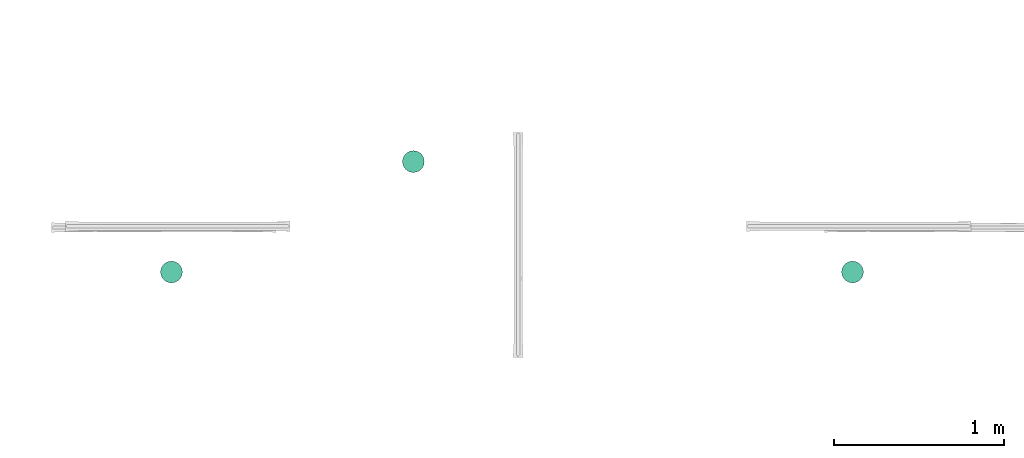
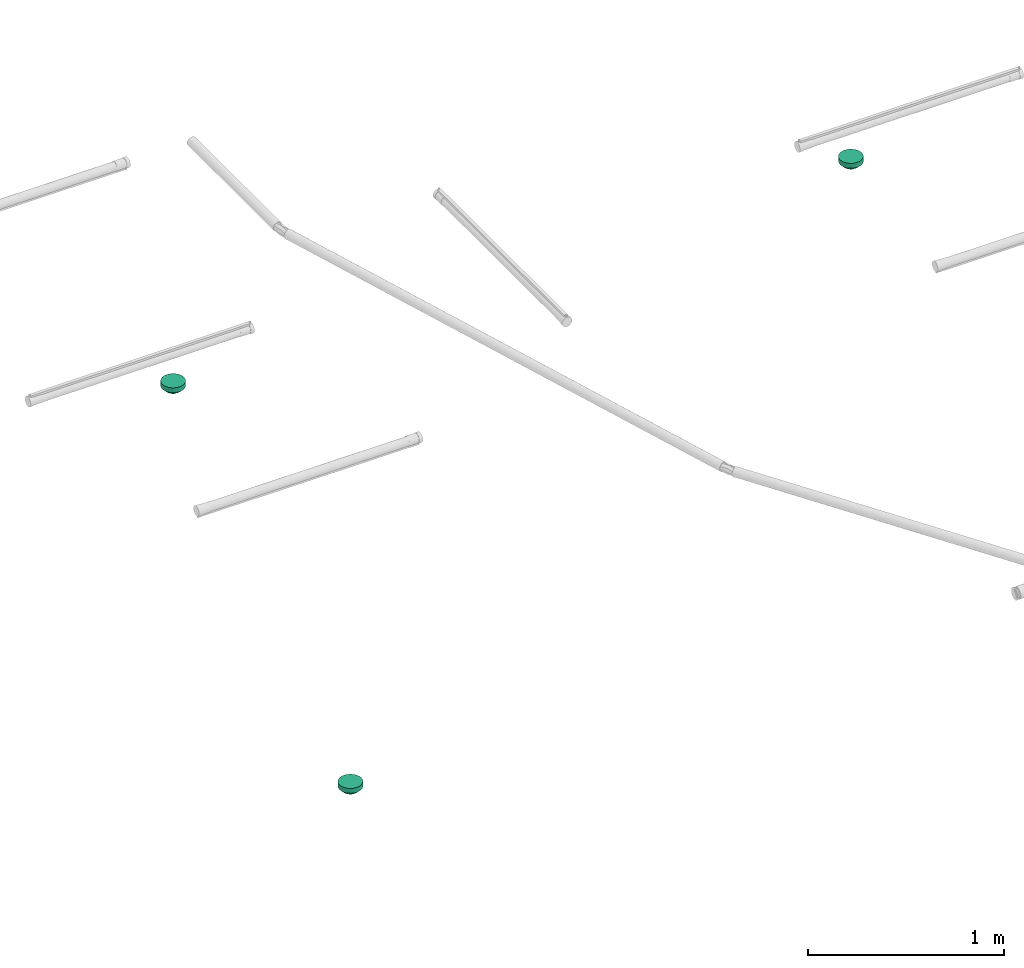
# One storey, part 32 of 153: 3 flow terminals.
"""IFC2X3 building model written with IfcOpenShell, lengths in metres."""

import ifcopenshell
import ifcopenshell.guid

model = None  # the IFC model being written
_history = None  # IfcOwnerHistory: only IFC2X3 demands one
_inside = {}  # id of a spatial element -> (the spatial element, [elements in it])
_under = {}  # id of a project, library or spatial element -> (it, [spatial elements below it])
_declared = {}  # id of a project -> (the project, [libraries it declares])
_typed = {}  # id of a type object -> (the type object, [elements of that type])
_made_of = {}  # id of a material, layer set ... -> (it, [elements and type objects made of it])


def new_model(schema):
    """Start an empty IFC model of exactly this schema.

    Asked for "IFC4X3", IfcOpenShell would pick the latest addendum, in which some entities
    have other attributes; the version numbers below select the first issue.
    IFC2X3 requires an IfcOwnerHistory on every rooted entity: one is made here for all.
    """
    global model, _history
    if schema == "IFC4X3":
        model = ifcopenshell.file(schema_version=(4, 3, 0, 0))
    else:
        model = ifcopenshell.file(schema=schema)
    _inside.clear()
    _under.clear()
    _declared.clear()
    _typed.clear()
    _made_of.clear()
    _history = None
    if model.schema == "IFC2X3":
        org = make("IfcOrganization", Name="unknown")
        user = make(
            "IfcPersonAndOrganization",
            ThePerson=make("IfcPerson", FamilyName="unknown"),
            TheOrganization=org,
        )
        app = make(
            "IfcApplication",
            ApplicationDeveloper=org,
            Version="unknown",
            ApplicationFullName="unknown",
            ApplicationIdentifier="unknown",
        )
        _history = make(
            "IfcOwnerHistory",
            OwningUser=user,
            OwningApplication=app,
            ChangeAction="ADDED",
            CreationDate=0,
        )
    return model


def make(cls, **values):
    """One entity of the class cls with the attributes given. An attribute that is None is left unset."""
    return model.create_entity(
        cls, **{name: value for name, value in values.items() if value is not None}
    )


def entity(cls, *values):
    """Any entity or typed value of the class cls, its attributes in the order of the schema. None: left unset."""
    e = model.create_entity(cls)
    for i, value in enumerate(values):
        if value is not None:
            e[i] = value
    return e


def rooted(cls, **values):
    """An entity with a GlobalId (a new one), such as an element, a storey or a relation."""
    return make(cls, GlobalId=ifcopenshell.guid.new(), OwnerHistory=_history, **values)


def si_unit(unit_type, name, prefix=None):
    """IfcSIUnit, for example si_unit("LENGTHUNIT", "METRE", prefix="MILLI")."""
    return make("IfcSIUnit", UnitType=unit_type, Prefix=prefix, Name=name)


def converted_unit(unit_type, name, factor, base, dimensions=None, offset=None):
    """IfcConversionBasedUnit, such as the inch: factor (a typed value) times the base unit."""
    return make(
        "IfcConversionBasedUnit"
        if offset is None
        else "IfcConversionBasedUnitWithOffset",
        ConversionOffset=offset,
        Dimensions=None
        if dimensions is None
        else entity("IfcDimensionalExponents", *dimensions),
        UnitType=unit_type,
        Name=name,
        ConversionFactor=make(
            "IfcMeasureWithUnit", ValueComponent=factor, UnitComponent=base
        ),
    )


def derived_unit(unit_type, elements):
    """IfcDerivedUnit: a product of units, each with its exponent."""
    return make(
        "IfcDerivedUnit",
        Elements=[
            make("IfcDerivedUnitElement", Unit=unit, Exponent=power)
            for unit, power in elements
        ],
        UnitType=unit_type,
    )


def assignment(units):
    """IfcUnitAssignment: the units of a project."""
    return None if units is None else make("IfcUnitAssignment", Units=units)


def point(xyz):
    """IfcCartesianPoint."""
    return None if xyz is None else make("IfcCartesianPoint", Coordinates=xyz)


def direction(xyz):
    """IfcDirection."""
    return None if xyz is None else make("IfcDirection", DirectionRatios=xyz)


def frame(location, z_axis=None, x_axis=None):
    """IfcAxis2Placement3D, a coordinate frame: its origin and axes. An axis left out is left unset."""
    return make(
        "IfcAxis2Placement3D",
        Location=point(location),
        Axis=direction(z_axis),
        RefDirection=direction(x_axis),
    )


def origin():
    """The frame at (0, 0, 0) with its axes left unset."""
    return frame((0.0, 0.0, 0.0))


def place(relative_to, where):
    """IfcLocalPlacement: puts the frame where relative to a parent placement (None: the world)."""
    return make(
        "IfcLocalPlacement", PlacementRelTo=relative_to, RelativePlacement=where
    )


def context(
    kind, dimensions, precision=None, world=None, true_north=None, identifier=None
):
    """IfcGeometricRepresentationContext, for example the 3D "Model" context."""
    return make(
        "IfcGeometricRepresentationContext",
        ContextIdentifier=identifier,
        ContextType=kind,
        CoordinateSpaceDimension=dimensions,
        Precision=precision,
        WorldCoordinateSystem=world,
        TrueNorth=true_north,
    )


def subcontext(parent, identifier, kind, view, scale=None):
    """IfcGeometricRepresentationSubContext, for example "Body" below "Model"."""
    return make(
        "IfcGeometricRepresentationSubContext",
        ContextIdentifier=identifier,
        ContextType=kind,
        ParentContext=parent,
        TargetScale=scale,
        TargetView=view,
    )


def project(units=None, contexts=None):
    """IfcProject with its units and contexts."""
    return rooted(
        "IfcProject",
        Name="project",
        RepresentationContexts=contexts,
        UnitsInContext=assignment(units),
    )


def spatial(cls, under=None, at=None, **own):
    """A site, building, storey or space (cls), placed at a placement, below another one or the project."""
    s = rooted(cls, ObjectPlacement=at, **own)
    if under is not None:
        _under.setdefault(under.id(), (under, []))[1].append(s)
    return s


def faces_of(points, faces, orient=None, outer=None):
    """IfcFace entities. A face is a list of loops; a loop is a list of indices into points, from 0.

    orient and outer hold one flag for each loop. By default every Orientation is true, the
    first loop of a face is its IfcFaceOuterBound and the others are IfcFaceBound.
    """
    made = []
    for i, loops in enumerate(faces):
        bounds = []
        for j, loop in enumerate(loops):
            is_outer = j == 0 if outer is None else outer[i][j]
            bounds.append(
                make(
                    "IfcFaceOuterBound" if is_outer else "IfcFaceBound",
                    Bound=make("IfcPolyLoop", Polygon=[points[k] for k in loop]),
                    Orientation=True if orient is None else orient[i][j],
                )
            )
        made.append(make("IfcFace", Bounds=bounds))
    return made


def faceted_brep(points, faces, orient=None, outer=None, voids=None):
    """IfcFacetedBrep: a solid bounded by flat faces; with voids (closed shells), ...WithVoids."""
    shared = [point(p) for p in points]
    hull = make("IfcClosedShell", CfsFaces=faces_of(shared, faces, orient, outer))
    if voids is None:
        return make("IfcFacetedBrep", Outer=hull)
    return make(
        "IfcFacetedBrepWithVoids",
        Outer=hull,
        Voids=[
            make(cls, CfsFaces=faces_of(shared, fs, o, b)) for cls, fs, o, b in voids
        ],
    )


def shape(context_of_items, identifier, shape_type, items):
    """IfcShapeRepresentation: the items that make up one representation, for example the "Body"."""
    return make(
        "IfcShapeRepresentation",
        ContextOfItems=context_of_items,
        RepresentationIdentifier=identifier,
        RepresentationType=shape_type,
        Items=items,
    )


def source(mapping_origin, context_of_items, identifier, shape_type, items):
    """IfcRepresentationMap: a shape defined once, which mapped items show again and again."""
    return make(
        "IfcRepresentationMap",
        MappingOrigin=mapping_origin,
        MappedRepresentation=shape(context_of_items, identifier, shape_type, items),
    )


def transform(
    local_origin,
    x_axis=None,
    y_axis=None,
    z_axis=None,
    scale=None,
    scale2=None,
    scale3=None,
    uniform=True,
):
    """IfcCartesianTransformationOperator3D, or its non-uniform kind. x_axis, y_axis, z_axis: its Axis1, 2, 3."""
    if uniform:
        return make(
            "IfcCartesianTransformationOperator3D",
            Axis1=direction(x_axis),
            Axis2=direction(y_axis),
            LocalOrigin=point(local_origin),
            Scale=scale,
            Axis3=direction(z_axis),
        )
    return make(
        "IfcCartesianTransformationOperator3DnonUniform",
        Axis1=direction(x_axis),
        Axis2=direction(y_axis),
        LocalOrigin=point(local_origin),
        Scale=scale,
        Axis3=direction(z_axis),
        Scale2=scale2,
        Scale3=scale3,
    )


def mapped(mapping_source, mapping_target):
    """IfcMappedItem: shows the shape of a source again, moved by a transform."""
    return make(
        "IfcMappedItem", MappingSource=mapping_source, MappingTarget=mapping_target
    )


def made_of(thing, what):
    """Note that an element or type object is made of a material, layer set ...; save() writes the relation."""
    if what is not None:
        _made_of.setdefault(what.id(), (what, []))[1].append(thing)
    return thing


def type_object(cls, material=None, **own):
    """A type object (cls), such as IfcWallType, which elements share."""
    return made_of(rooted(cls, **own), material)


def type_shapes(of_type, sources):
    """Give a type object the sources (RepresentationMaps) that its elements show as mapped items."""
    of_type.RepresentationMaps = sources


def element(
    cls,
    number,
    at=None,
    inside=None,
    cuts=None,
    type_object=None,
    material=None,
    context=None,
    identifier="Body",
    shape_type=None,
    held_by="IfcProductDefinitionShape",
    body=None,
    shapes=None,
    **own,
):
    """One element of the class cls, such as IfcWall. Its Tag is "e" and its number.

    at: its placement. inside: the storey or other place that contains it. cuts: it is an
    opening in that element (IfcRelVoidsElement). A single representation is given by context,
    identifier, shape_type and body (its items); several are given by shapes. held_by: the class
    of the entity that holds the representations. save() writes the other relations.
    """
    e = rooted(cls, Tag="e%d" % number, ObjectPlacement=at, **own)
    if body is not None:
        shapes = [shape(context, identifier, shape_type, body)]
    if shapes is not None:
        e.Representation = make(held_by, Representations=shapes)
    if inside is not None:
        _inside.setdefault(inside.id(), (inside, []))[1].append(e)
    if cuts is not None:
        rooted(
            "IfcRelVoidsElement", RelatingBuildingElement=cuts, RelatedOpeningElement=e
        )
    if type_object is not None:
        _typed.setdefault(type_object.id(), (type_object, []))[1].append(e)
    return made_of(e, material)


def aggregate(whole, parts):
    """IfcRelAggregates: a whole, such as a stair, and the parts it consists of."""
    return rooted("IfcRelAggregates", RelatingObject=whole, RelatedObjects=parts)


def save(model, path):
    """Write the relations noted so far, then the file.

    IfcRelAggregates (storeys below a building ...), IfcRelContainedInSpatialStructure (elements
    in a storey), IfcRelDefinesByType, IfcRelAssociatesMaterial and IfcRelDeclares: one each for
    every whole, place, type object, material and project.
    """
    for whole, parts in _under.values():
        aggregate(whole, parts)
    for where, things in _inside.values():
        rooted(
            "IfcRelContainedInSpatialStructure",
            RelatedElements=things,
            RelatingStructure=where,
        )
    for kind, things in _typed.values():
        rooted("IfcRelDefinesByType", RelatedObjects=things, RelatingType=kind)
    for what, things in _made_of.values():
        rooted("IfcRelAssociatesMaterial", RelatedObjects=things, RelatingMaterial=what)
    for by, libraries in _declared.values():
        rooted("IfcRelDeclares", RelatingContext=by, RelatedDefinitions=libraries)
    model.write(path)


model = new_model("IFC2X3")

# Units and contexts
model_context = context("Model", 3, precision=1e-05, world=origin(), true_north=direction((6.12303176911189e-17, 1.0)))
body_context = subcontext(model_context, "Body", "Model", "MODEL_VIEW")
ifc_project = project(units=[si_unit("LENGTHUNIT", "METRE"), si_unit("AREAUNIT", "SQUARE_METRE"), si_unit("VOLUMEUNIT", "CUBIC_METRE"), converted_unit("PLANEANGLEUNIT", "DEGREE", entity("IfcRatioMeasure", 0.0174532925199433), si_unit("PLANEANGLEUNIT", "RADIAN"), dimensions=[0, 0, 0, 0, 0, 0, 0]), si_unit("MASSUNIT", "GRAM", prefix="KILO"), derived_unit("MASSDENSITYUNIT", [(si_unit("MASSUNIT", "GRAM", prefix="KILO"), 1), (si_unit("LENGTHUNIT", "METRE"), -3)]), si_unit("TIMEUNIT", "SECOND"), si_unit("FREQUENCYUNIT", "HERTZ"), si_unit("THERMODYNAMICTEMPERATUREUNIT", "DEGREE_CELSIUS"), derived_unit("THERMALTRANSMITTANCEUNIT", [(si_unit("MASSUNIT", "GRAM", prefix="KILO"), 1), (si_unit("THERMODYNAMICTEMPERATUREUNIT", "KELVIN"), -1), (si_unit("TIMEUNIT", "SECOND"), -3)]), derived_unit("VOLUMETRICFLOWRATEUNIT", [(si_unit("LENGTHUNIT", "METRE"), 3), (si_unit("TIMEUNIT", "SECOND"), -1)]), si_unit("ELECTRICCURRENTUNIT", "AMPERE"), si_unit("ELECTRICVOLTAGEUNIT", "VOLT"), si_unit("POWERUNIT", "WATT"), si_unit("FORCEUNIT", "NEWTON"), si_unit("ILLUMINANCEUNIT", "LUX"), si_unit("LUMINOUSFLUXUNIT", "LUMEN"), si_unit("LUMINOUSINTENSITYUNIT", "CANDELA"), derived_unit("USERDEFINED", [(si_unit("MASSUNIT", "GRAM", prefix="KILO"), -1), (si_unit("LENGTHUNIT", "METRE"), -2), (si_unit("TIMEUNIT", "SECOND"), 3), (si_unit("LUMINOUSFLUXUNIT", "LUMEN"), 1)]), derived_unit("LINEARVELOCITYUNIT", [(si_unit("LENGTHUNIT", "METRE"), 1), (si_unit("TIMEUNIT", "SECOND"), -1)]), si_unit("PRESSUREUNIT", "PASCAL"), derived_unit("USERDEFINED", [(si_unit("LENGTHUNIT", "METRE"), -2), (si_unit("MASSUNIT", "GRAM", prefix="KILO"), 1), (si_unit("TIMEUNIT", "SECOND"), -2)])], contexts=[model_context])

# Site, building, storey
site_placement = place(None, origin())
site = spatial("IfcSite", under=ifc_project, at=site_placement, Name="Default", CompositionType="ELEMENT")
building_placement = place(site_placement, origin())
building = spatial("IfcBuilding", under=site, at=building_placement, CompositionType="ELEMENT")
storey_placement = place(building_placement, frame((0.0, 0.0, -4.62)))
storey = spatial("IfcBuildingStorey", under=building, at=storey_placement, Name="S02", CompositionType="ELEMENT", Elevation=-4.62)

# Flow terminals
light_fixture_type = type_object("IfcLightFixtureType", Name="Détecteur 360°", PredefinedType="NOTDEFINED")
shared_shape = source(origin(), body_context, "Body", "Brep", [
    faceted_brep([(0.0, -0.0397165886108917, 0.0531256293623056), (0.0, -0.034524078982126, 0.0563702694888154), (-0.0175153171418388, -0.0435914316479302, 0.0478512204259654), (-0.0194029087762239, -0.000878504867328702, 0.0644483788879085), (0.0, 0.0, 0.0669999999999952), (0.0, 0.00603476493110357, 0.0659648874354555), (-0.0174057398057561, -0.0159851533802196, 0.0630502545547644), (-0.0366619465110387, -0.0127227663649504, 0.0549213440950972), (-0.026998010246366, -0.0195753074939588, 0.0584711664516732), (-0.0202403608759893, -0.0335607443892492, 0.054639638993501), (-0.0359767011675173, -0.0348394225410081, 0.0444249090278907), (-0.0276843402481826, -0.0401006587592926, 0.0459804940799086), (-0.0133088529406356, -0.0517577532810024, 0.0400582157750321), (-0.0172617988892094, -0.0486391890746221, 0.042533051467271), (-0.0256912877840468, -0.0533485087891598, 0.0299999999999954), (-0.0462941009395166, -0.0369183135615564, 0.0299999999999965), (0.0, -0.0241390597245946, 0.0628595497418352), (-0.0186245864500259, -0.0267295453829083, 0.0589100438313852), (-0.0139070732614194, -0.0374370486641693, 0.0540817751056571), (0.0, 0.0449090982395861, 0.049880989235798), (-0.0172618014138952, 0.0486391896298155, 0.0425330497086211), (0.0, 0.0397165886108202, 0.0531256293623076), (-0.0186245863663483, 0.0267295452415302, 0.0589100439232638), (-0.0202403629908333, 0.0335607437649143, 0.054639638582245), (-0.0353547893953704, 0.0284533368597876, 0.0494330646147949), (0.0, 0.0120695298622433, 0.0649297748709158), (-0.0249385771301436, 0.0204731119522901, 0.0590841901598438), (-0.0191783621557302, 0.0150189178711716, 0.062775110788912), (-0.0465404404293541, -0.0196510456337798, 0.0438984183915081), (-0.052010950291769, -0.0250471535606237, 0.029999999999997), (-0.0453471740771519, -0.0286501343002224, 0.0397747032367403), (-0.0365036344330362, -0.0226255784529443, 0.0516441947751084), (-0.0175153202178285, 0.0435914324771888, 0.0478512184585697), (-0.0359926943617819, 0.0451334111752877, 0.0299999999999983), (-0.0276843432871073, 0.0401006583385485, 0.0459804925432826), (-0.00849704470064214, -0.0572729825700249, 0.0299999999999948), (0.0, -0.0592123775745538, 0.0299999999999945), (0.0, -0.0545512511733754, 0.0364787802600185), (0.0, -0.049890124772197, 0.0429575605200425), (-0.0169940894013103, -0.055333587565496, 0.0299999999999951), (-0.0359767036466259, 0.0348394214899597, 0.0444249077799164), (-0.025691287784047, 0.0533485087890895, 0.0299999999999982), (-0.0308419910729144, 0.0492409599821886, 0.0299999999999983), (-0.0130265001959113, 0.0514867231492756, 0.040526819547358), (-0.0169940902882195, 0.0553335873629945, 0.029999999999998), (0.0, 0.0498901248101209, 0.0429575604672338), (-0.0353547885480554, -0.0284533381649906, 0.0494330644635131), (0.0, 0.0181042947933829, 0.0638946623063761), (-0.0473669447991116, -0.00128092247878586, 0.0474310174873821), (-0.0485435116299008, -0.00908961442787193, 0.0452357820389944), (-0.0366597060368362, -0.0032867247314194, 0.0563153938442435), (-0.0226425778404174, -0.0107553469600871, 0.0624973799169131), (0.0, -0.00603476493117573, 0.0659648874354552), (0.0, 0.0293315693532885, 0.0596149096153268), (-0.0139070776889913, 0.0374370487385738, 0.0540817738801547), (-0.0449600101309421, 0.018422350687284, 0.0461366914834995), (-0.0453471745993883, 0.0286501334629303, 0.0397747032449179), (-0.0476906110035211, 0.00670602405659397, 0.0466053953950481), (-0.0577277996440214, 0.0131759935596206, 0.0299999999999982), (-0.0577277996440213, 0.00658799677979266, 0.029999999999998), (-0.0577277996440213, 0.0, 0.0299999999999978), (0.0, -0.0449090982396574, 0.0498809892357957), (-0.0308419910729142, -0.049240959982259, 0.0299999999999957), (-0.0359926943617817, -0.0451334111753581, 0.029999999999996), (0.0, 0.0345240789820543, 0.0563702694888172), (-0.0411433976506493, 0.0410258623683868, 0.0299999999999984), (-0.0462941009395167, 0.0369183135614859, 0.0299999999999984), (-0.0491525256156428, -0.03098273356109, 0.0299999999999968), (-0.0577277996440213, -0.0131759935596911, 0.0299999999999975), (0.0, -0.018104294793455, 0.0638946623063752), (-0.0377433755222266, 0.0044838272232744, 0.0554913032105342), (-0.0577277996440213, -0.00658799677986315, 0.0299999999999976), (-0.0385149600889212, 0.0124844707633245, 0.0536578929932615), (-0.0491525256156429, 0.0309827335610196, 0.0299999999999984), (-0.0548693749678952, 0.0191115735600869, 0.0299999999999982), (0.0, 0.0241390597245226, 0.0628595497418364), (-0.014625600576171, 0.0100436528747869, 0.0649170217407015), (-0.0271766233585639, 0.00920278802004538, 0.0609170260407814), (0.0, -0.0120695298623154, 0.0649297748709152), (-0.0520109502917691, 0.0250471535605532, 0.0299999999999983), (-0.0411433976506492, -0.0410258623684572, 0.0299999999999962), (-0.0548693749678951, -0.0191115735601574, 0.0299999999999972), (0.0, -0.0293315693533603, 0.0596149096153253), (0.0, 0.0545512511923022, 0.0364787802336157), (0.0, 0.0592123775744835, 0.0299999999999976), (-0.00849704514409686, 0.057272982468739, 0.0299999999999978), (-0.0127455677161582, 0.0563032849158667, 0.0299999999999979), (-0.0213426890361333, 0.054341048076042, 0.0299999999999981), (0.0175153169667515, 0.0435914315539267, 0.0478512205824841), (0.0194029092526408, 0.000878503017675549, 0.0644483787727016), (0.017405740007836, 0.0159851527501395, 0.0630502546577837), (0.0366619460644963, 0.012722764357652, 0.0549213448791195), (0.0269980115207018, 0.0195753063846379, 0.0584711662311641), (0.0202403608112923, 0.0335607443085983, 0.0546396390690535), (0.0359767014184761, 0.0348394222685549, 0.0444249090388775), (0.0276843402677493, 0.0401006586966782, 0.0459804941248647), (0.0133088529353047, 0.0517577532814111, 0.0400582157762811), (0.0172617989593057, 0.0486391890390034, 0.0425330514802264), (0.0256912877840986, 0.0533485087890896, 0.0299999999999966), (0.0462941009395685, 0.0369183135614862, 0.0299999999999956), (0.00849704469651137, 0.0572729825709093, 0.0299999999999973), (0.0169940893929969, 0.0553335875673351, 0.029999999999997), (0.0172617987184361, -0.0486391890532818, 0.0425330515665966), (0.025691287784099, -0.0533485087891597, 0.0299999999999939), (0.0308419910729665, -0.0492409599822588, 0.0299999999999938), (0.0175153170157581, -0.0435914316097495, 0.0478512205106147), (0.0186245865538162, -0.0267295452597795, 0.0589100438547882), (0.0202403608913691, -0.03356074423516, 0.0546396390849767), (0.0353547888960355, -0.0284533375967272, 0.0494330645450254), (0.0249385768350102, -0.0204731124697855, 0.0590841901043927), (0.0191783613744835, -0.0150189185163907, 0.062775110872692), (0.0465404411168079, 0.0196510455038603, 0.0438984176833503), (0.0577277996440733, 0.0131759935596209, 0.0299999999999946), (0.0548693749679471, 0.0191115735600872, 0.0299999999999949), (0.0520109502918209, 0.0250471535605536, 0.0299999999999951), (0.0365036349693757, 0.0226255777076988, 0.0516441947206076), (0.0186245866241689, 0.0267295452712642, 0.0589100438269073), (0.0359926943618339, -0.0451334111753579, 0.0299999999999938), (0.0276843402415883, -0.0401006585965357, 0.0459804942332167), (0.0139070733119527, 0.0374370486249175, 0.0540817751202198), (0.0359767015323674, -0.0348394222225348, 0.044424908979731), (0.0226425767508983, 0.0107553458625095, 0.0624973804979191), (0.0169940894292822, -0.0553335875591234, 0.0299999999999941), (0.0130264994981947, -0.0514867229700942, 0.0405268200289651), (0.0453471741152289, 0.0286501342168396, 0.039774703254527), (0.0353547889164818, 0.0284533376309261, 0.0494330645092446), (0.0473669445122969, 0.00128092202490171, 0.0474310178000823), (0.0485435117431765, 0.00908961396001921, 0.0452357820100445), (0.0366597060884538, 0.00328672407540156, 0.0563153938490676), (0.0139070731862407, -0.0374370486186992, 0.0540817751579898), (0.0449600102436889, -0.018422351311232, 0.0461366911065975), (0.0453471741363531, -0.0286501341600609, 0.039774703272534), (0.0476906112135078, -0.00670602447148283, 0.046605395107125), (0.0577277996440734, -0.0131759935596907, 0.0299999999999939), (0.0577277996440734, -0.00658799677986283, 0.0299999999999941), (0.0577277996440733, 0.0, 0.0299999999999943), (0.0308419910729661, 0.0492409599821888, 0.0299999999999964), (0.0359926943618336, 0.0451334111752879, 0.0299999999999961), (0.0411433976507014, -0.041025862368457, 0.0299999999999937), (0.0462941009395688, -0.0369183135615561, 0.0299999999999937), (0.0491525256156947, 0.0309827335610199, 0.0299999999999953), (0.037743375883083, -0.00448382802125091, 0.0554913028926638), (0.0577277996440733, 0.00658799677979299, 0.0299999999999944), (0.0385149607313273, -0.0124844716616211, 0.0536578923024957), (0.049152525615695, -0.0309827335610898, 0.0299999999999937), (0.0548693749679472, -0.0191115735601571, 0.0299999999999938), (0.0146256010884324, -0.0100436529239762, 0.0649170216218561), (0.0271766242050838, -0.00920278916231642, 0.0609170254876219), (0.0520109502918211, -0.0250471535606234, 0.0299999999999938), (0.041143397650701, 0.0410258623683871, 0.0299999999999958), (0.00849704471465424, -0.0572729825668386, 0.0299999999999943), (0.0127455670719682, -0.056303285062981, 0.0299999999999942), (0.0213426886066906, -0.0543410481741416, 0.029999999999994), (0.0, 0.0, 0.0299999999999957)], [[[0, 1, 2]], [[3, 4, 5]], [[6, 7, 8]], [[9, 10, 11]], [[12, 13, 14]], [[10, 15, 11]], [[9, 16, 17]], [[18, 9, 11]], [[19, 20, 21]], [[22, 23, 24]], [[25, 26, 27]], [[28, 29, 30]], [[8, 31, 17]], [[32, 33, 34]], [[35, 36, 37, 38, 39]], [[23, 40, 24]], [[20, 41, 42]], [[19, 43, 20]], [[44, 43, 45]], [[20, 32, 21]], [[30, 10, 46]], [[22, 26, 47]], [[48, 49, 50]], [[3, 51, 52]], [[53, 54, 23]], [[55, 24, 56]], [[57, 58, 59, 60]], [[13, 61, 0]], [[13, 0, 2]], [[2, 62, 13]], [[18, 2, 1]], [[2, 11, 63]], [[32, 64, 21]], [[32, 42, 33]], [[34, 33, 65, 66]], [[20, 42, 32]], [[54, 32, 34]], [[28, 30, 31]], [[10, 67, 15]], [[49, 68, 28]], [[8, 17, 69]], [[7, 6, 51]], [[28, 31, 7]], [[57, 48, 70]], [[58, 57, 55]], [[48, 71, 49]], [[70, 48, 50]], [[3, 50, 51]], [[55, 26, 24]], [[72, 57, 70]], [[26, 55, 72]], [[56, 40, 73]], [[56, 74, 55]], [[47, 75, 22]], [[52, 4, 3]], [[7, 50, 49]], [[5, 76, 3]], [[70, 3, 77]], [[51, 78, 52]], [[26, 25, 47]], [[76, 25, 27]], [[23, 22, 75]], [[26, 22, 24]], [[53, 64, 54]], [[23, 34, 40]], [[66, 40, 34]], [[40, 66, 73]], [[56, 73, 79, 74]], [[72, 27, 26]], [[40, 56, 24]], [[23, 75, 53]], [[69, 17, 16]], [[78, 6, 69]], [[46, 10, 9]], [[46, 9, 17]], [[50, 7, 51]], [[30, 29, 67]], [[80, 63, 11, 15]], [[28, 68, 81, 29]], [[10, 30, 67]], [[30, 46, 31]], [[82, 18, 1]], [[82, 16, 9]], [[28, 7, 49]], [[12, 39, 38]], [[61, 13, 12]], [[83, 84, 85, 86, 44, 45]], [[43, 41, 20]], [[44, 87, 41, 43]], [[32, 54, 64]], [[23, 54, 34]], [[9, 18, 82]], [[2, 18, 11]], [[39, 12, 14]], [[38, 61, 12]], [[62, 2, 63]], [[62, 14, 13]], [[17, 31, 46]], [[7, 31, 8]], [[48, 60, 71]], [[71, 68, 49]], [[60, 48, 57]], [[3, 70, 50]], [[72, 70, 77]], [[72, 77, 27]], [[55, 57, 72]], [[74, 58, 55]], [[76, 27, 77]], [[3, 76, 77]], [[25, 76, 5]], [[69, 6, 8]], [[78, 51, 6]], [[45, 43, 19]], [[21, 64, 88]], [[89, 4, 52]], [[90, 91, 92]], [[93, 94, 95]], [[96, 97, 98]], [[94, 99, 95]], [[100, 84, 83, 45, 101]], [[102, 103, 104]], [[102, 105, 0]], [[106, 107, 108]], [[78, 109, 110]], [[111, 112, 113, 114]], [[92, 115, 116]], [[105, 117, 118]], [[119, 93, 95]], [[107, 120, 108]], [[89, 121, 5]], [[122, 123, 38]], [[61, 123, 102]], [[93, 75, 116]], [[124, 94, 125]], [[106, 109, 69]], [[126, 127, 128]], [[61, 102, 0]], [[82, 129, 107]], [[130, 108, 131]], [[132, 133, 134, 135]], [[97, 19, 21]], [[97, 21, 88]], [[88, 136, 97]], [[119, 88, 64]], [[88, 95, 137]], [[105, 1, 0]], [[105, 104, 117]], [[118, 117, 138, 139]], [[102, 104, 105]], [[129, 105, 118]], [[111, 124, 115]], [[94, 140, 99]], [[127, 112, 111]], [[92, 116, 47]], [[91, 90, 121]], [[111, 115, 91]], [[132, 126, 141]], [[133, 132, 130]], [[126, 142, 127]], [[141, 126, 128]], [[89, 128, 121]], [[130, 109, 108]], [[143, 132, 141]], [[109, 130, 143]], [[131, 120, 144]], [[131, 145, 130]], [[69, 16, 106]], [[5, 4, 89]], [[91, 128, 127]], [[52, 146, 89]], [[141, 89, 147]], [[121, 25, 5]], [[109, 78, 69]], [[146, 78, 110]], [[107, 106, 16]], [[109, 106, 108]], [[82, 1, 129]], [[107, 118, 120]], [[139, 120, 118]], [[120, 139, 144]], [[131, 144, 148, 145]], [[143, 110, 109]], [[120, 131, 108]], [[107, 16, 82]], [[47, 116, 75]], [[25, 90, 47]], [[125, 94, 93]], [[125, 93, 116]], [[128, 91, 121]], [[124, 114, 140]], [[149, 137, 95, 99]], [[111, 114, 124]], [[94, 124, 140]], [[124, 125, 115]], [[53, 119, 64]], [[53, 75, 93]], [[111, 91, 127]], [[96, 101, 45]], [[19, 97, 96]], [[37, 36, 150, 151, 122, 38]], [[123, 103, 102]], [[122, 152, 103, 123]], [[105, 129, 1]], [[107, 129, 118]], [[93, 119, 53]], [[88, 119, 95]], [[101, 96, 98]], [[45, 19, 96]], [[136, 88, 137]], [[136, 98, 97]], [[116, 115, 125]], [[91, 115, 92]], [[126, 135, 142]], [[142, 112, 127]], [[135, 126, 132]], [[89, 141, 128]], [[143, 141, 147]], [[143, 147, 110]], [[130, 132, 143]], [[145, 133, 130]], [[146, 110, 147]], [[89, 146, 147]], [[78, 146, 52]], [[47, 90, 92]], [[25, 121, 90]], [[38, 123, 61]], [[153, 66, 65]], [[153, 65, 33]], [[153, 33, 42]], [[153, 42, 41]], [[153, 41, 87]], [[153, 73, 66]], [[153, 79, 73]], [[153, 74, 79]], [[153, 58, 74]], [[153, 87, 44]], [[153, 44, 86]], [[153, 86, 85]], [[153, 85, 84]], [[153, 84, 100]], [[153, 59, 58]], [[153, 60, 59]], [[153, 71, 60]], [[153, 68, 71]], [[153, 81, 68]], [[153, 29, 81]], [[153, 67, 29]], [[153, 15, 67]], [[153, 80, 15]], [[153, 63, 80]], [[153, 62, 63]], [[153, 14, 62]], [[153, 39, 14]], [[153, 35, 39]], [[153, 36, 35]], [[153, 100, 101]], [[153, 101, 98]], [[153, 98, 136]], [[153, 136, 137]], [[153, 137, 149]], [[153, 149, 99]], [[153, 99, 140]], [[153, 140, 114]], [[153, 114, 113]], [[153, 113, 112]], [[153, 112, 142]], [[153, 150, 36]], [[153, 151, 150]], [[153, 122, 151]], [[153, 152, 122]], [[153, 103, 152]], [[153, 104, 103]], [[153, 117, 104]], [[153, 138, 117]], [[153, 139, 138]], [[153, 144, 139]], [[153, 148, 144]], [[153, 145, 148]], [[153, 133, 145]], [[153, 142, 135]], [[153, 135, 134]], [[153, 134, 133]]]),
    faceted_brep([(0.0165644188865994, -0.0618192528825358, 0.029999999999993), (0.0320000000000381, -0.0554256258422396, 0.0299999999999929), (0.0452548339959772, -0.0452548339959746, 0.0299999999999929), (0.0554256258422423, -0.0320000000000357, 0.029999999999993), (0.0618192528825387, -0.016564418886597, 0.0299999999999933), (0.0640000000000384, 0.0, 0.0299999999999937), (0.0618192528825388, 0.016564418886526, 0.0299999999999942), (0.0554256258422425, 0.0319999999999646, 0.0299999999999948), (0.0452548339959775, 0.0452548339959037, 0.0299999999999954), (0.0320000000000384, 0.0554256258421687, 0.0299999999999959), (0.0165644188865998, 0.061819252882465, 0.0299999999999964), (0.0, 0.0639999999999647, 0.0299999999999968), (-0.0165644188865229, 0.061819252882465, 0.0299999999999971), (-0.0319999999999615, 0.0554256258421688, 0.0299999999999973), (-0.0452548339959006, 0.0452548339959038, 0.0299999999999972), (-0.0554256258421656, 0.0319999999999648, 0.0299999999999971), (-0.0618192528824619, 0.0165644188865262, 0.0299999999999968), (-0.0639999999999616, 0.0, 0.0299999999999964), (-0.061819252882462, -0.0165644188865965, 0.0299999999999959), (-0.0554256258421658, -0.0320000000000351, 0.0299999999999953), (-0.0452548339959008, -0.0452548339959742, 0.0299999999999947), (-0.0319999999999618, -0.0554256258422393, 0.0299999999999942), (-0.0165644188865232, -0.0618192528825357, 0.0299999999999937), (0.0, -0.0640000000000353, 0.0299999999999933), (0.0165644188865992, 0.0618192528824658, 0.0), (0.0320000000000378, 0.0554256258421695, 0.0), (0.0452548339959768, 0.0452548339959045, 0.0), (0.0554256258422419, 0.0319999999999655, 0.0), (0.0618192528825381, 0.0165644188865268, 0.0), (0.0640000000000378, 0.0, 0.0), (0.061819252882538, -0.0165644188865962, 0.0), (0.0554256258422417, -0.0320000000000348, 0.0), (0.0452548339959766, -0.0452548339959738, 0.0), (0.0320000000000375, -0.0554256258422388, 0.0), (0.0165644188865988, -0.061819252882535, 0.0), (0.0, -0.0640000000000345, 0.0), (-0.0165644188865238, -0.0618192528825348, 0.0), (-0.0319999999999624, -0.0554256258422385, 0.0), (-0.0452548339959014, -0.0452548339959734, 0.0), (-0.0554256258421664, -0.0320000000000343, 0.0), (-0.0618192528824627, -0.0165644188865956, 0.0), (-0.0639999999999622, 0.0, 0.0), (-0.0618192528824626, 0.016564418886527, 0.0), (-0.0554256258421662, 0.0319999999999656, 0.0), (-0.0452548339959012, 0.0452548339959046, 0.0), (-0.0319999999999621, 0.0554256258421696, 0.0), (-0.0165644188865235, 0.0618192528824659, 0.0), (0.0, 0.0639999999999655, 0.0)], [[[0, 1, 2, 3, 4, 5, 6, 7, 8, 9, 10, 11, 12, 13, 14, 15, 16, 17, 18, 19, 20, 21, 22, 23]], [[24, 25, 26, 27, 28, 29, 30, 31, 32, 33, 34, 35, 36, 37, 38, 39, 40, 41, 42, 43, 44, 45, 46, 47]], [[40, 18, 17, 41]], [[39, 19, 18, 40]], [[21, 20, 38, 37]], [[39, 38, 20, 19]], [[22, 21, 37, 36]], [[23, 22, 36, 35]], [[34, 0, 23, 35]], [[33, 1, 0, 34]], [[3, 2, 32, 31]], [[33, 32, 2, 1]], [[4, 3, 31, 30]], [[5, 4, 30, 29]], [[28, 6, 5, 29]], [[27, 7, 6, 28]], [[9, 8, 26, 25]], [[27, 26, 8, 7]], [[10, 9, 25, 24]], [[11, 10, 24, 47]], [[46, 12, 11, 47]], [[45, 13, 12, 46]], [[42, 41, 17, 16]], [[44, 14, 13, 45]], [[43, 15, 14, 44]], [[43, 42, 16, 15]]]),
])
type_shapes(light_fixture_type, [shared_shape])
for number, where, z_axis, x_axis in (
    (1, (28.8744346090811, -188.828177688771, 3.37), (0.0, 0.0, -1.0), (-1.0, 0.0, 0.0)),
    (2, (31.4535521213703, -189.476781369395, 6.76), (0.0, 0.0, -1.0), (-1.0, 0.0, 0.0)),
    (3, (27.4535521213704, -189.476781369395, 6.76), (0.0, 0.0, -1.0), (-1.0, 0.0, 0.0)),
):
    element("IfcFlowTerminal", number, at=place(building_placement, frame(where, z_axis=z_axis, x_axis=x_axis)), inside=storey, type_object=light_fixture_type, Name="INT - Détecteur Luminosite:Détecteur 360°", ObjectType="INT - Détecteur Luminosite:Détecteur 360°", context=body_context, shape_type="MappedRepresentation", body=[
        mapped(shared_shape, transform((0.0, 0.0, 0.0), scale=1.0)),
    ])

save(model, "model.ifc")
